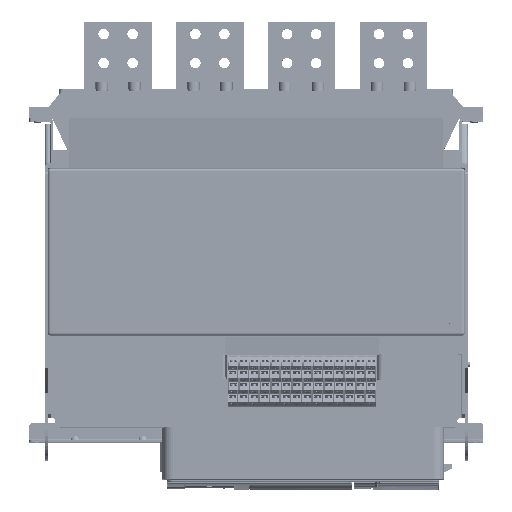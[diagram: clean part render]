
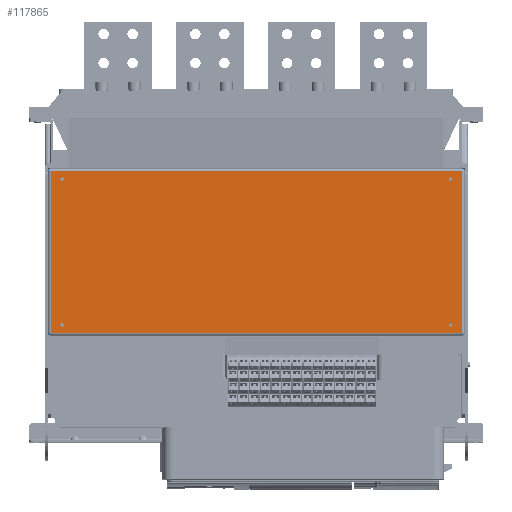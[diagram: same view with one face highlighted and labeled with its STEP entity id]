
A CAD part, top view. The second image highlights one B-rep face of the part: STEP entity #117865.
In plain terms, the highlighted planar face has unit normal (0, 0, 1) as drawn and (0, -1, 0) by its records, which use the part's own axes.
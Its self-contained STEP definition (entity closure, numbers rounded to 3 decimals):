
#5241=FACE_BOUND('',#14788,.T.);
#5242=FACE_BOUND('',#14789,.T.);
#5243=FACE_BOUND('',#14790,.T.);
#5244=FACE_BOUND('',#14791,.T.);
#8096=FACE_OUTER_BOUND('',#14787,.T.);
#14787=EDGE_LOOP('',(#89697,#89698,#89699,#89700));
#14788=EDGE_LOOP('',(#89701));
#14789=EDGE_LOOP('',(#89702));
#14790=EDGE_LOOP('',(#89703));
#14791=EDGE_LOOP('',(#89704));
#20284=CIRCLE('',#126065,1.75);
#20285=CIRCLE('',#126066,1.75);
#20286=CIRCLE('',#126067,1.75);
#20287=CIRCLE('',#126068,1.75);
#27977=LINE('',#180679,#40718);
#27978=LINE('',#180681,#40719);
#27979=LINE('',#180683,#40720);
#27980=LINE('',#180684,#40721);
#40718=VECTOR('',#145224,167.);
#40719=VECTOR('',#145225,426.);
#40720=VECTOR('',#145226,167.);
#40721=VECTOR('',#145227,426.);
#52460=VERTEX_POINT('',#180677);
#52461=VERTEX_POINT('',#180678);
#52462=VERTEX_POINT('',#180680);
#52463=VERTEX_POINT('',#180682);
#52464=VERTEX_POINT('',#180685);
#52465=VERTEX_POINT('',#180687);
#52466=VERTEX_POINT('',#180689);
#52467=VERTEX_POINT('',#180691);
#65953=EDGE_CURVE('',#52460,#52461,#27977,.T.);
#65954=EDGE_CURVE('',#52461,#52462,#27978,.T.);
#65955=EDGE_CURVE('',#52462,#52463,#27979,.T.);
#65956=EDGE_CURVE('',#52463,#52460,#27980,.T.);
#65957=EDGE_CURVE('',#52464,#52464,#20284,.T.);
#65958=EDGE_CURVE('',#52465,#52465,#20285,.T.);
#65959=EDGE_CURVE('',#52466,#52466,#20286,.T.);
#65960=EDGE_CURVE('',#52467,#52467,#20287,.T.);
#89697=ORIENTED_EDGE('',*,*,#65953,.T.);
#89698=ORIENTED_EDGE('',*,*,#65954,.T.);
#89699=ORIENTED_EDGE('',*,*,#65955,.T.);
#89700=ORIENTED_EDGE('',*,*,#65956,.T.);
#89701=ORIENTED_EDGE('',*,*,#65957,.F.);
#89702=ORIENTED_EDGE('',*,*,#65958,.F.);
#89703=ORIENTED_EDGE('',*,*,#65959,.F.);
#89704=ORIENTED_EDGE('',*,*,#65960,.F.);
#113070=PLANE('',#126064);
#117865=ADVANCED_FACE('',(#8096,#5241,#5242,#5243,#5244),#113070,.F.);
#126064=AXIS2_PLACEMENT_3D('',#180676,#145222,#145223);
#126065=AXIS2_PLACEMENT_3D('',#180686,#145228,#145229);
#126066=AXIS2_PLACEMENT_3D('',#180688,#145230,#145231);
#126067=AXIS2_PLACEMENT_3D('',#180690,#145232,#145233);
#126068=AXIS2_PLACEMENT_3D('',#180692,#145234,#145235);
#145222=DIRECTION('center_axis',(0.,1.,0.));
#145223=DIRECTION('ref_axis',(1.,0.,0.));
#145224=DIRECTION('',(0.,0.,1.));
#145225=DIRECTION('',(-1.,0.,0.));
#145226=DIRECTION('',(0.,0.,-1.));
#145227=DIRECTION('',(1.,0.,0.));
#145228=DIRECTION('center_axis',(0.,-1.,0.));
#145229=DIRECTION('ref_axis',(1.,0.,0.));
#145230=DIRECTION('center_axis',(0.,-1.,0.));
#145231=DIRECTION('ref_axis',(1.,0.,0.));
#145232=DIRECTION('center_axis',(0.,-1.,0.));
#145233=DIRECTION('ref_axis',(1.,0.,0.));
#145234=DIRECTION('center_axis',(0.,-1.,0.));
#145235=DIRECTION('ref_axis',(1.,0.,0.));
#180676=CARTESIAN_POINT('Origin',(0.,0.,0.));
#180677=CARTESIAN_POINT('',(213.,0.,-83.5));
#180678=CARTESIAN_POINT('',(213.,0.,83.5));
#180679=CARTESIAN_POINT('',(213.,0.,-83.5));
#180680=CARTESIAN_POINT('',(-213.,0.,83.5));
#180681=CARTESIAN_POINT('',(213.,0.,83.5));
#180682=CARTESIAN_POINT('',(-213.,0.,-83.5));
#180683=CARTESIAN_POINT('',(-213.,0.,83.5));
#180684=CARTESIAN_POINT('',(-213.,0.,-83.5));
#180685=CARTESIAN_POINT('',(199.25,0.,75.5));
#180686=CARTESIAN_POINT('Origin',(201.,0.,75.5));
#180687=CARTESIAN_POINT('',(199.25,0.,-75.5));
#180688=CARTESIAN_POINT('Origin',(201.,0.,-75.5));
#180689=CARTESIAN_POINT('',(-202.75,0.,-75.5));
#180690=CARTESIAN_POINT('Origin',(-201.,0.,-75.5));
#180691=CARTESIAN_POINT('',(-202.75,0.,75.5));
#180692=CARTESIAN_POINT('Origin',(-201.,0.,75.5));
